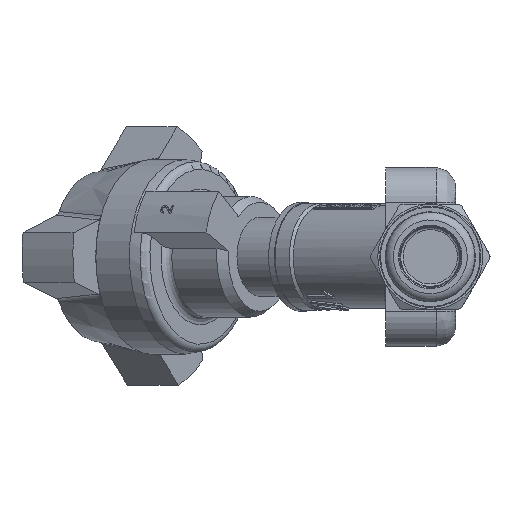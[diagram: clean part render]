
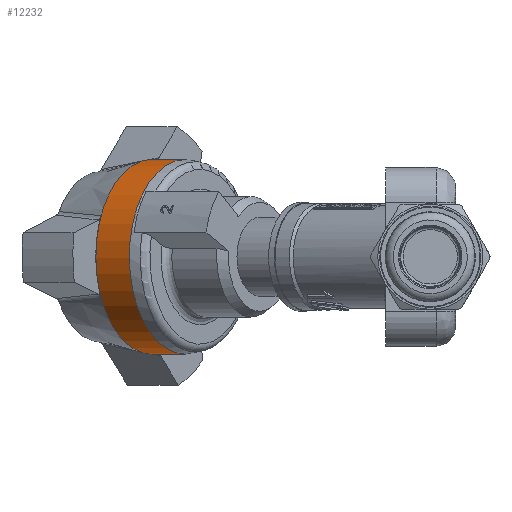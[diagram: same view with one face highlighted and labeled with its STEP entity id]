
A CAD part, left-side view. The second image highlights one B-rep face of the part: STEP entity #12232.
In plain terms, the highlighted cylindrical face has radius 25 mm (diameter 50 mm), a full revolution.
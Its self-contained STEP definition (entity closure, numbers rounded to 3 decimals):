
#12131=CARTESIAN_POINT('',(0.618,62.948,-24.999));
#12132=VERTEX_POINT('',#12131);
#12133=CARTESIAN_POINT('',(0.456,63.061,0.));
#12134=DIRECTION('',(0.574,0.819,0.));
#12135=DIRECTION('',(0.006,-0.005,-1.));
#12136=AXIS2_PLACEMENT_3D('',#12133,#12134,#12135);
#12137=CIRCLE('',#12136,25.);
#12138=EDGE_CURVE('',#12132,#12132,#12137,.T.);
#12213=CARTESIAN_POINT('',(4.184,68.385,0.));
#12214=DIRECTION('',(0.574,0.819,0.));
#12215=DIRECTION('',(0.006,-0.005,-1.));
#12216=AXIS2_PLACEMENT_3D('',#12213,#12214,#12215);
#12217=CYLINDRICAL_SURFACE('',#12216,25.);
#12218=ORIENTED_EDGE('',*,*,#12138,.T.);
#12219=EDGE_LOOP('',(#12218));
#12220=FACE_OUTER_BOUND('',#12219,.T.);
#12221=CARTESIAN_POINT('',(6.64,71.549,-24.999));
#12222=VERTEX_POINT('',#12221);
#12223=CARTESIAN_POINT('',(6.478,71.662,0.));
#12224=DIRECTION('',(0.574,0.819,0.));
#12225=DIRECTION('',(0.006,-0.005,-1.));
#12226=AXIS2_PLACEMENT_3D('',#12223,#12224,#12225);
#12227=CIRCLE('',#12226,25.);
#12228=EDGE_CURVE('',#12222,#12222,#12227,.T.);
#12229=ORIENTED_EDGE('',*,*,#12228,.F.);
#12230=EDGE_LOOP('',(#12229));
#12231=FACE_BOUND('',#12230,.T.);
#12232=ADVANCED_FACE('',(#12220,#12231),#12217,.T.);
